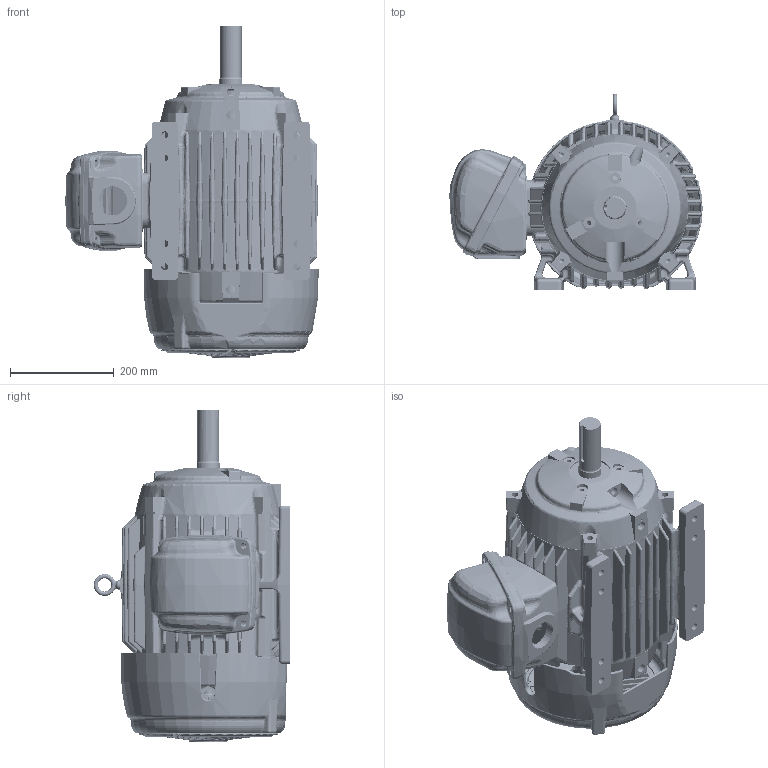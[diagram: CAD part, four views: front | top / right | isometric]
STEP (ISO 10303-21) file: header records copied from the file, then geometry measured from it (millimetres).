
FILE_DESCRIPTION((''),'2;1');
FILE_NAME('250_GP_ASSY_ASM','2014-06-26T',('NMC779F'),('Nidec Motor Corporation'),'PRO/ENGINEER BY PARAMETRIC TECHNOLOGY CORPORATION, 2013150','PRO/ENGINEER BY PARAMETRIC TECHNOLOGY CORPORATION, 2013150','');
FILE_SCHEMA(('CONFIG_CONTROL_DESIGN'));
Products named in the file (11): 0929960; 0931977; 0535421; 0931967; 0347251; 0133167; 0347277; 0558996; 0165757; 0110307; 250_GP_ASSY_ASM
Assembly tree (10 placements, depth 2):
  250_GP_ASSY_ASM
    0929960
    0931977
    0535421
    0931967
    0347251
    0133167
    0347277
    0558996
    0165757
    0110307
Bounding box: 487.79 x 378.65 x 638.98 mm (x, y, z)
Volume: 11331998.1 mm3; surface area: 2428836.8 mm2
Topology: 12 solids, 12 shells, 4901 faces, 12005 edges, 7142 vertices
Faces by surface type: bspline 2411, cylinder 711, plane 672, torus 434, cone 302, extrusion 192, sphere 137, revolution 42
Entity records: 249860 total; most frequent: CARTESIAN_POINT 154088, ORIENTED_EDGE 23942, DIRECTION 14326, EDGE_CURVE 11971, VERTEX_POINT 7141, B_SPLINE_CURVE_WITH_KNOTS 6555, AXIS2_PLACEMENT_3D 6165, EDGE_LOOP 5150
